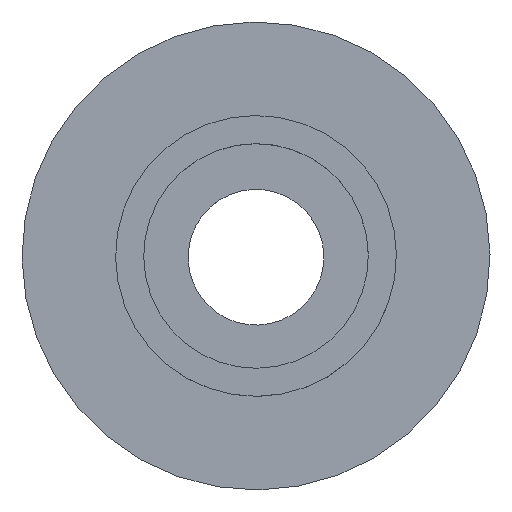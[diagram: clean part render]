
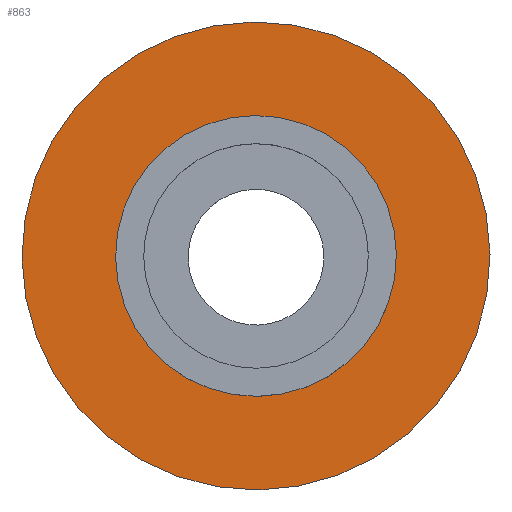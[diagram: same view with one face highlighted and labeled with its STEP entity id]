
A CAD part, top view. The second image highlights one B-rep face of the part: STEP entity #863.
In plain terms, the highlighted planar face has unit normal (0, 0, 1).
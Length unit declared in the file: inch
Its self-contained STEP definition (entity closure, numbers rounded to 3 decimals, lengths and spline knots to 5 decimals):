
#173=FACE_BOUND('',#268,.T.);
#201=FACE_OUTER_BOUND('',#267,.T.);
#267=EDGE_LOOP('',(#575));
#268=EDGE_LOOP('',(#576));
#341=CIRCLE('',#934,1.5625);
#342=CIRCLE('',#936,0.9375);
#373=VERTEX_POINT('',#1175);
#374=VERTEX_POINT('',#1178);
#455=EDGE_CURVE('',#373,#373,#341,.T.);
#456=EDGE_CURVE('',#374,#374,#342,.T.);
#575=ORIENTED_EDGE('',*,*,#455,.T.);
#576=ORIENTED_EDGE('',*,*,#456,.F.);
#780=PLANE('',#935);
#863=ADVANCED_FACE('',(#201,#173),#780,.T.);
#934=AXIS2_PLACEMENT_3D('',#1176,#1022,#1023);
#935=AXIS2_PLACEMENT_3D('',#1177,#1024,#1025);
#936=AXIS2_PLACEMENT_3D('',#1179,#1026,#1027);
#1022=DIRECTION('center_axis',(0.,0.,
1.));
#1023=DIRECTION('ref_axis',(-0.35,0.937,0.));
#1024=DIRECTION('center_axis',(0.,0.,
1.));
#1025=DIRECTION('ref_axis',(0.937,0.35,0.));
#1026=DIRECTION('center_axis',(0.,0.,
1.));
#1027=DIRECTION('ref_axis',(-0.35,0.937,0.));
#1175=CARTESIAN_POINT('',(-0.54649,1.46381,0.));
#1176=CARTESIAN_POINT('Origin',(0.,0.,
0.));
#1177=CARTESIAN_POINT('Origin',(-0.4372,1.17105,0.));
#1178=CARTESIAN_POINT('',(-0.3279,0.87829,0.));
#1179=CARTESIAN_POINT('Origin',(0.,0.,
0.));
